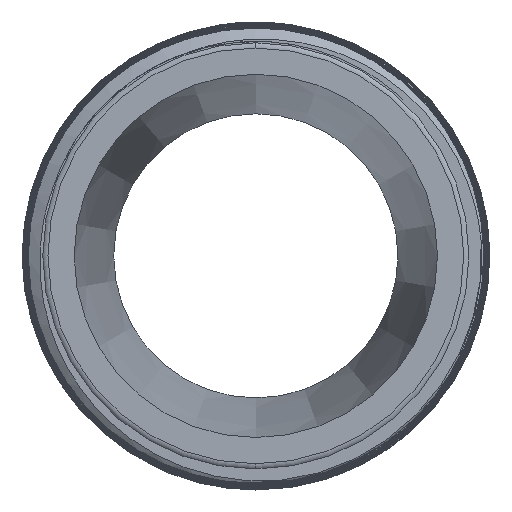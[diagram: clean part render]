
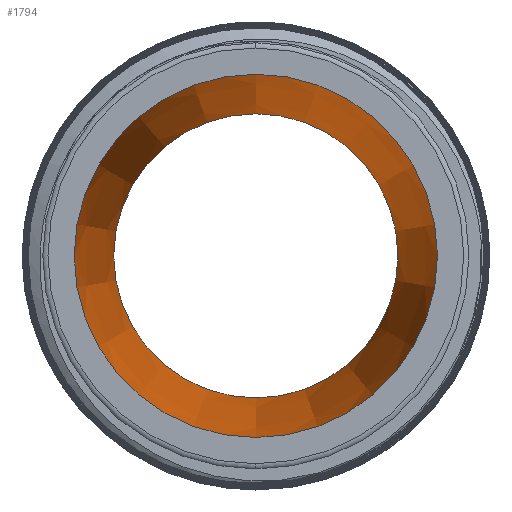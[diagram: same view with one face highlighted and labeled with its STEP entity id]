
A CAD part, left-side view. The second image highlights one B-rep face of the part: STEP entity #1794.
In plain terms, the highlighted conical face has half-angle 6 degrees and reference radius 18.669 mm.
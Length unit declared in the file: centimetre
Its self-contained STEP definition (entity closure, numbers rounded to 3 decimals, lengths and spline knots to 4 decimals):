
#108=CONICAL_SURFACE('',#1948,1.8669,0.105);
#182=CIRCLE('',#1940,1.8669);
#187=CIRCLE('',#1949,1.4605);
#629=VERTEX_POINT('',#3233);
#634=VERTEX_POINT('',#3247);
#857=EDGE_CURVE('',#629,#629,#182,.T.);
#862=EDGE_CURVE('',#634,#634,#187,.T.);
#1252=ORIENTED_EDGE('',*,*,#862,.F.);
#1253=ORIENTED_EDGE('',*,*,#857,.F.);
#1541=EDGE_LOOP('',(#1252));
#1542=EDGE_LOOP('',(#1253));
#1673=FACE_BOUND('',#1541,.T.);
#1674=FACE_BOUND('',#1542,.T.);
#1794=ADVANCED_FACE('',(#1673,#1674),#108,.F.);
#1940=AXIS2_PLACEMENT_3D('',#3232,#2255,#2256);
#1948=AXIS2_PLACEMENT_3D('',#3245,#2269,#2270);
#1949=AXIS2_PLACEMENT_3D('',#3246,#2271,#2272);
#2255=DIRECTION('',(1.,0.,0.));
#2256=DIRECTION('',(0.,0.,1.867));
#2269=DIRECTION('',(-1.,0.,0.));
#2270=DIRECTION('',(0.,0.,1.867));
#2271=DIRECTION('',(-1.,0.,0.));
#2272=DIRECTION('',(0.,1.461,0.));
#3232=CARTESIAN_POINT('',(-5.9795,0.,0.));
#3233=CARTESIAN_POINT('',(-5.9795,0.,1.8669));
#3245=CARTESIAN_POINT('',(-5.9795,0.,0.));
#3246=CARTESIAN_POINT('',(-2.1128,0.,0.));
#3247=CARTESIAN_POINT('',(-2.1128,-1.4605,0.));
